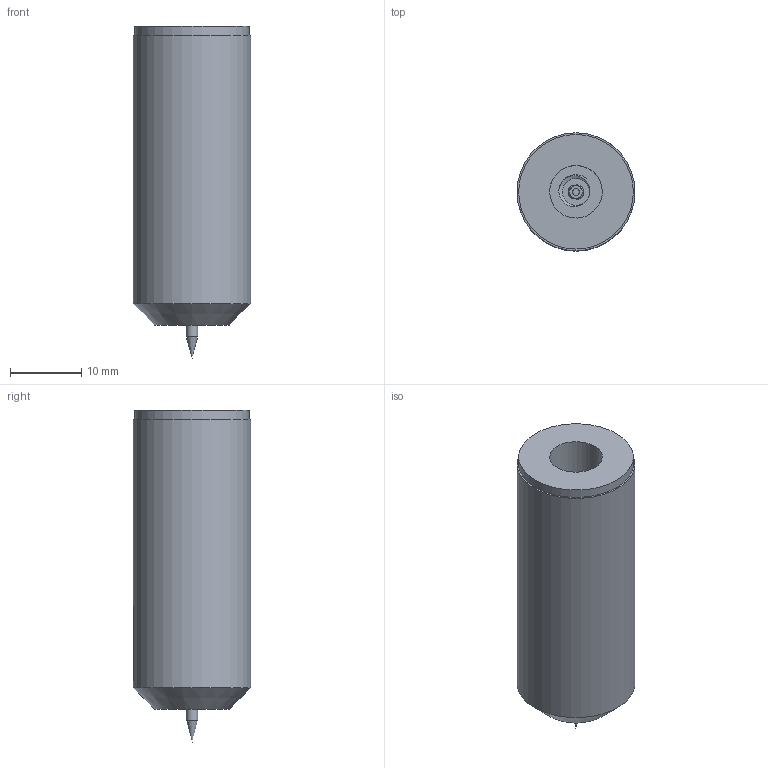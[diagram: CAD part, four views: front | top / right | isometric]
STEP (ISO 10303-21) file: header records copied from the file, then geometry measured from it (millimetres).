
FILE_DESCRIPTION(/* description */ (''),/* implementation_level */ '2;1');
FILE_NAME(/* name */ 'C:\Users\ntakaki\Desktop\G1099\G1099.step',/* time_stamp */ '2022-03-08T14:54:38-05:00',/* author */ ('ntakaki'),/* organization */ (''),/* preprocessor_version */ 'ST-DEVELOPER v18.1',/* originating_system */ 'AutoCAD Mechanical',/* authorisation */ '');
FILE_SCHEMA (('AUTOMOTIVE_DESIGN { 1 0 10303 214 3 1 1 }'));
Length unit declared in the file: inch
Products named in the file (1): Product
Bounding box: 16.51 x 16.51 x 46.48 mm (x, y, z)
Volume: 7865.3 mm3; surface area: 3274.3 mm2
Topology: 1 solids, 1 shells, 135 faces, 444 edges, 318 vertices
Faces by surface type: cylinder 62, cone 39, plane 32, bspline 2
Full cylindrical faces by diameter (mm): 1.587 x1, 1.846 x8, 2.032 x1, 2.184 x7, 3.795 x14, 4.826 x14, 7.366 x1, 16.049 x1, 16.51 x1
Entity records: 9162 total; most frequent: CARTESIAN_POINT 5733, ORIENTED_EDGE 884, DIRECTION 547, EDGE_CURVE 442, VERTEX_POINT 318, AXIS2_PLACEMENT_3D 216, EDGE_LOOP 144, FACE_OUTER_BOUND 135
